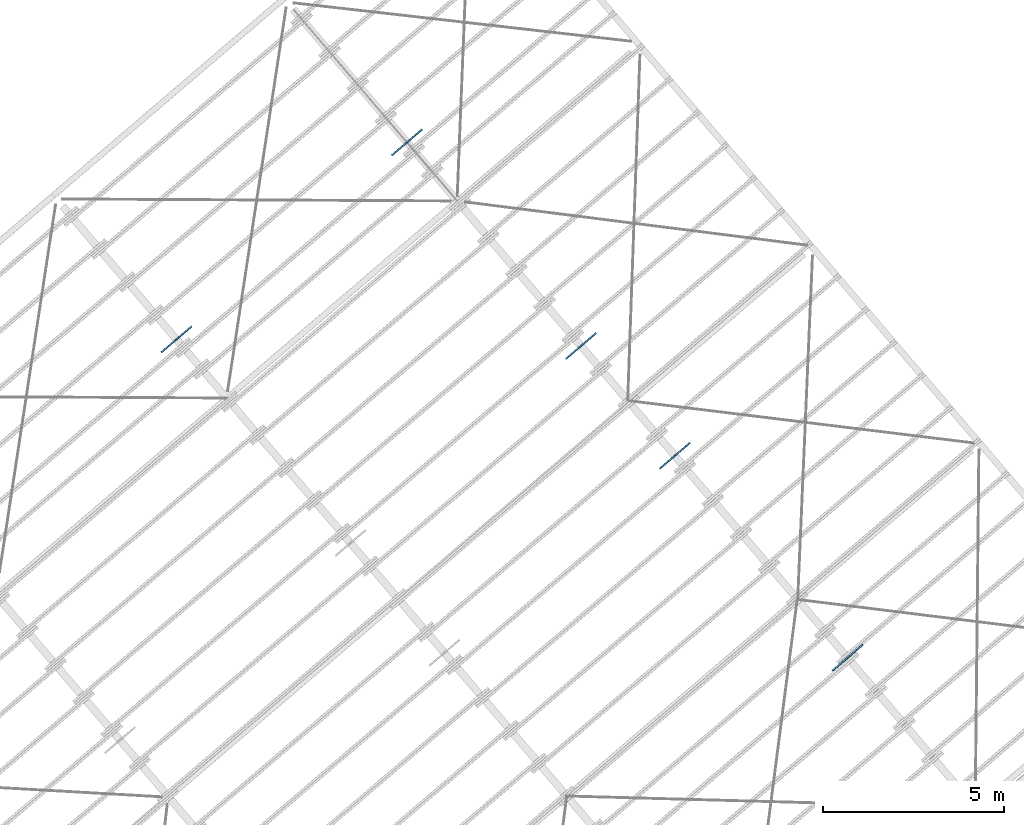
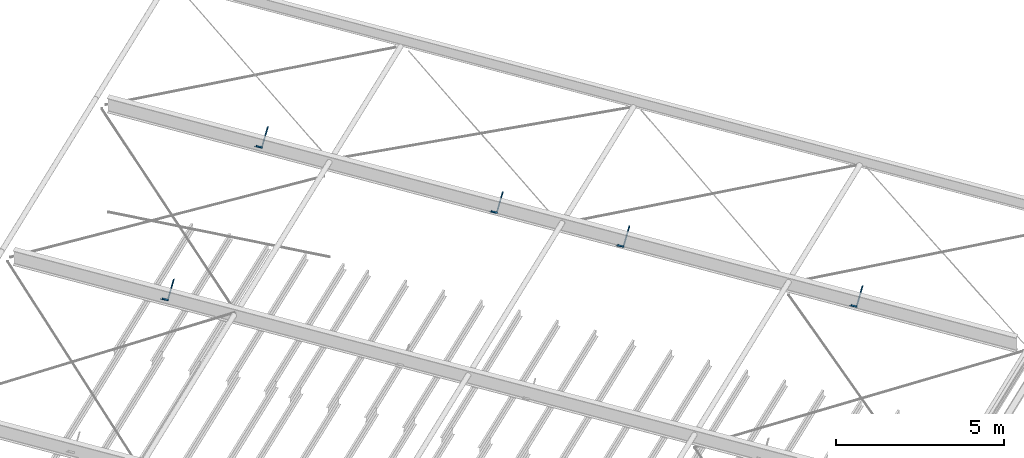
# One storey, part 23 of 25: 10 beams.
"""IFC2X3 building model written with IfcOpenShell, lengths in millimetres."""

from ifc_helpers import new_model, entity, si_unit, converted_unit, derived_unit, direction, frame, frame_2d, origin, place, context, subcontext, project, spatial, polyline, circle_curve, parameter, trimmed, segment, composite_curve, outline, extrude, clip, halfspace, type_object, element, save


model = new_model("IFC2X3")

# Units and contexts
model_context = context("Model", 3, precision=0.01, world=origin(), true_north=direction((6.123031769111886e-17, 1.0)))
body_context = subcontext(model_context, "Body", "Model", "MODEL_VIEW")
ifc_project = project(units=[si_unit("LENGTHUNIT", "METRE", prefix="MILLI"), si_unit("AREAUNIT", "SQUARE_METRE"), si_unit("VOLUMEUNIT", "CUBIC_METRE"), converted_unit("PLANEANGLEUNIT", "DEGREE", entity("IfcRatioMeasure", 0.017453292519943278), si_unit("PLANEANGLEUNIT", "RADIAN"), dimensions=[0, 0, 0, 0, 0, 0, 0]), si_unit("MASSUNIT", "GRAM", prefix="KILO"), derived_unit("MASSDENSITYUNIT", [(si_unit("MASSUNIT", "GRAM", prefix="KILO"), 1), (si_unit("LENGTHUNIT", "METRE"), -3)]), derived_unit("MOMENTOFINERTIAUNIT", [(si_unit("LENGTHUNIT", "METRE"), 4)]), si_unit("TIMEUNIT", "SECOND"), si_unit("FREQUENCYUNIT", "HERTZ"), si_unit("THERMODYNAMICTEMPERATUREUNIT", "DEGREE_CELSIUS"), derived_unit("THERMALTRANSMITTANCEUNIT", [(si_unit("MASSUNIT", "GRAM", prefix="KILO"), 1), (si_unit("THERMODYNAMICTEMPERATUREUNIT", "KELVIN"), -1), (si_unit("TIMEUNIT", "SECOND"), -3)]), derived_unit("VOLUMETRICFLOWRATEUNIT", [(si_unit("LENGTHUNIT", "METRE"), 3), (si_unit("TIMEUNIT", "SECOND"), -1)]), derived_unit("MASSFLOWRATEUNIT", [(si_unit("MASSUNIT", "GRAM", prefix="KILO"), 1), (si_unit("TIMEUNIT", "SECOND"), -1)]), derived_unit("ROTATIONALFREQUENCYUNIT", [(si_unit("TIMEUNIT", "SECOND"), -1)]), si_unit("ELECTRICCURRENTUNIT", "AMPERE"), si_unit("ELECTRICVOLTAGEUNIT", "VOLT"), si_unit("POWERUNIT", "WATT"), si_unit("FORCEUNIT", "NEWTON", prefix="KILO"), si_unit("ILLUMINANCEUNIT", "LUX"), si_unit("LUMINOUSFLUXUNIT", "LUMEN"), si_unit("LUMINOUSINTENSITYUNIT", "CANDELA"), derived_unit("USERDEFINED", [(si_unit("MASSUNIT", "GRAM", prefix="KILO"), -1), (si_unit("LENGTHUNIT", "METRE"), -2), (si_unit("TIMEUNIT", "SECOND"), 3), (si_unit("LUMINOUSFLUXUNIT", "LUMEN"), 1)]), derived_unit("SOUNDPOWERUNIT", [(si_unit("MASSUNIT", "GRAM", prefix="KILO"), 1), (si_unit("LENGTHUNIT", "METRE"), 2), (si_unit("TIMEUNIT", "SECOND"), -3)]), derived_unit("LINEARVELOCITYUNIT", [(si_unit("LENGTHUNIT", "METRE"), 1), (si_unit("TIMEUNIT", "SECOND"), -1)]), si_unit("PRESSUREUNIT", "PASCAL"), derived_unit("USERDEFINED", [(si_unit("LENGTHUNIT", "METRE"), -2), (si_unit("MASSUNIT", "GRAM", prefix="KILO"), 1), (si_unit("TIMEUNIT", "SECOND"), -2)]), derived_unit("LINEARFORCEUNIT", [(si_unit("MASSUNIT", "GRAM", prefix="KILO"), 1), (si_unit("LENGTHUNIT", "METRE"), 1), (si_unit("TIMEUNIT", "SECOND"), -2), (si_unit("LENGTHUNIT", "METRE"), -1)]), derived_unit("PLANARFORCEUNIT", [(si_unit("MASSUNIT", "GRAM", prefix="KILO"), 1), (si_unit("LENGTHUNIT", "METRE"), 1), (si_unit("TIMEUNIT", "SECOND"), -2), (si_unit("LENGTHUNIT", "METRE"), -2)])], contexts=[model_context])

# Site, building, storey
site_placement = place(None, frame((962.4174930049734, -6014.433753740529, 0.0), z_axis=(0.0, 0.0, 1.0), x_axis=(0.7601792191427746, 0.649713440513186, 0.0)))
site = spatial("IfcSite", under=ifc_project, at=site_placement, Name="Default", CompositionType="ELEMENT")
building_placement = place(site_placement, origin())
building = spatial("IfcBuilding", under=site, at=building_placement, CompositionType="ELEMENT")
storey_placement = place(building_placement, frame((0.0, 0.0, 9200.0)))
storey = spatial("IfcBuildingStorey", under=building, at=storey_placement, Name="TOP OF CEILING", CompositionType="ELEMENT", Elevation=9200.000000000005)

# Beams
beam_type = type_object("IfcBeamType", Name="ADSK_AU_EA-Equal Angles (AS 3679_1):50x50x5EA", PredefinedType="NOTDEFINED")
beam_1_placement = place(storey_placement, frame((179666.05964134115, -20517.928082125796, 2502.2460975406), z_axis=(-0.6018150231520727, 0.0, 0.7986355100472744), x_axis=(-0.7986355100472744, 0.0, -0.6018150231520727)))
element("IfcBeam", 1, at=beam_1_placement, inside=storey, type_object=beam_type, Name="ADSK_AU_EA-Equal Angles (AS 3679_1):50x50x5EA", ObjectType="ADSK_AU_EA-Equal Angles (AS 3679_1):50x50x5EA", context=body_context, shape_type="SweptSolid", body=[
    clip(extrude(outline(composite_curve([segment(polyline([(16.88888888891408, -31.11111111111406), (18.88888888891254, -31.111111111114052)]), True, "CONTINUOUS"), segment(polyline([(18.88888888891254, -31.111111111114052), (18.888888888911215, 18.888888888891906)]), True, "CONTINUOUS"), segment(polyline([(18.888888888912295, 18.888888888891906), (-31.11111111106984, 18.88888888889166)]), True, "CONTINUOUS"), segment(polyline([(-31.111111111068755, 18.88888888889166), (-31.11111111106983, 16.888888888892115)]), True, "CONTINUOUS"), segment(trimmed(circle_curve(frame_2d((-28.111111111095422, 16.8888888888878), x_axis=(-1.0, 0.0)), 2.9999999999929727), [parameter(0.0)], [parameter(90.00000000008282)], True, "PARAMETER"), True, "CONTINUOUS"), segment(polyline([(-28.111111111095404, 13.88888888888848), (7.888888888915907, 13.888888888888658)]), True, "CONTINUOUS"), segment(trimmed(circle_curve(frame_2d((7.888888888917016, 7.88888888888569), x_axis=(0.0, 1.0)), 6.00000000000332), [parameter(270.0000000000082)], [parameter(0.0)], True, "PARAMETER"), False, "CONTINUOUS"), segment(polyline([(13.8888888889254, 7.888888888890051), (13.888888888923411, -28.11111111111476)]), True, "CONTINUOUS"), segment(trimmed(circle_curve(frame_2d((16.888888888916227, -28.111111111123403), x_axis=(-1.0, 0.0)), 2.9999999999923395), [parameter(0.0)], [parameter(90.00000000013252)], True, "PARAMETER"), True, "CONTINUOUS")], self_intersect=False)), frame((0.0, -4.9888888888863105, -31.11111111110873), z_axis=(1.0, 0.0, 0.0), x_axis=(0.0, 0.0, -1.0)), (0.0, 0.0, 1.0), 697.6777025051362), halfspace(frame((697.67770250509, 0.0, -50.0), z_axis=(0.7986355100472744, 0.0, 0.6018150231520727), x_axis=(0.0, -1.0, 0.0)), False)),
])
beam_2_placement = place(storey_placement, frame((178611.86076807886, -20517.928082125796, 2502.2460975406), z_axis=(0.6018150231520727, 0.0, 0.7986355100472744), x_axis=(0.7986355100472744, 0.0, -0.6018150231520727)))
element("IfcBeam", 2, at=beam_2_placement, inside=storey, type_object=beam_type, Name="ADSK_AU_EA-Equal Angles (AS 3679_1):50x50x5EA", ObjectType="ADSK_AU_EA-Equal Angles (AS 3679_1):50x50x5EA", context=body_context, shape_type="SweptSolid", body=[
    clip(extrude(outline(composite_curve([segment(polyline([(-31.111111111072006, -18.88888888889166), (18.888888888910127, -18.888888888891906)]), True, "CONTINUOUS"), segment(polyline([(18.888888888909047, -18.888888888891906), (18.888888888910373, 31.111111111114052)]), True, "CONTINUOUS"), segment(polyline([(18.888888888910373, 31.111111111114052), (16.888888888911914, 31.11111111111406)]), True, "CONTINUOUS"), segment(trimmed(circle_curve(frame_2d((16.88888888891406, 28.111111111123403), x_axis=(0.0, 1.0)), 2.9999999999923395), [parameter(0.0)], [parameter(90.00000000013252)], True, "PARAMETER"), True, "CONTINUOUS"), segment(polyline([(13.888888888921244, 28.11111111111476), (13.888888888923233, -7.888888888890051)]), True, "CONTINUOUS"), segment(trimmed(circle_curve(frame_2d((7.888888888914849, -7.88888888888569), x_axis=(1.0, 0.0)), 6.00000000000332), [parameter(270.0000000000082)], [parameter(0.0)], True, "PARAMETER"), False, "CONTINUOUS"), segment(polyline([(7.88888888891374, -13.888888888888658), (-28.111111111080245, -13.88888888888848)]), True, "CONTINUOUS"), segment(trimmed(circle_curve(frame_2d((-28.111111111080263, -16.8888888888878), x_axis=(0.0, 1.0)), 2.9999999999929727), [parameter(0.0)], [parameter(90.00000000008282)], True, "PARAMETER"), True, "CONTINUOUS"), segment(polyline([(-31.111111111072, -16.888888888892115), (-31.111111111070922, -18.88888888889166)]), True, "CONTINUOUS")], self_intersect=False)), frame((0.0, 4.9888888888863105, -31.111111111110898), z_axis=(1.0, 0.0, 0.0), x_axis=(0.0, 0.0, -1.0)), (0.0, 0.0, 1.0), 697.6777025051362), halfspace(frame((697.6777025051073, 0.0, -50.0), z_axis=(0.7986355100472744, 0.0, 0.6018150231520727), x_axis=(0.0, -1.0, 0.0)), False)),
])
beam_3_placement = place(storey_placement, frame((171266.0596413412, -1736.2280821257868, 3902.2460975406), z_axis=(-0.6018150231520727, 0.0, 0.7986355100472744), x_axis=(-0.7986355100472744, 0.0, -0.6018150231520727)))
element("IfcBeam", 3, at=beam_3_placement, inside=storey, type_object=beam_type, Name="ADSK_AU_EA-Equal Angles (AS 3679_1):50x50x5EA", ObjectType="ADSK_AU_EA-Equal Angles (AS 3679_1):50x50x5EA", context=body_context, shape_type="SweptSolid", body=[
    clip(extrude(outline(composite_curve([segment(polyline([(16.88888888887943, -31.111111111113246), (18.888888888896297, -31.11111111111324)]), True, "CONTINUOUS"), segment(polyline([(18.888888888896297, -31.11111111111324), (18.888888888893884, 18.888888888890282)]), True, "CONTINUOUS"), segment(polyline([(18.88888888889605, 18.888888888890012), (-31.11111111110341, 18.888888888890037)]), True, "CONTINUOUS"), segment(polyline([(-31.11111111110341, 18.888888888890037), (-31.1111111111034, 16.888888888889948)]), True, "CONTINUOUS"), segment(trimmed(circle_curve(frame_2d((-28.11111111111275, 16.888888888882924), x_axis=(-1.0, 0.0)), 2.999999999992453), [parameter(0.0)], [parameter(90.00000000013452)], True, "PARAMETER"), True, "CONTINUOUS"), segment(polyline([(-28.11111111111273, 13.888888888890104), (7.888888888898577, 13.888888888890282)]), True, "CONTINUOUS"), segment(trimmed(circle_curve(frame_2d((7.888888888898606, 7.8888888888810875), x_axis=(0.0, 1.0)), 6.000000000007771), [parameter(270.0000000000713)], [parameter(0.0)], True, "PARAMETER"), False, "CONTINUOUS"), segment(polyline([(13.888888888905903, 7.888888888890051), (13.88888888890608, -28.111111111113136)]), True, "CONTINUOUS"), segment(trimmed(circle_curve(frame_2d((16.888888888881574, -28.11111111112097), x_axis=(-1.0, 0.0)), 2.9999999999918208), [parameter(0.0)], [parameter(90.000000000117)], True, "PARAMETER"), True, "CONTINUOUS")], self_intersect=False)), frame((0.0, -4.988888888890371, -31.111111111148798), z_axis=(1.0, 0.0, 0.0), x_axis=(0.0, 0.0, -1.0)), (0.0, 0.0, 1.0), 697.6777025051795), halfspace(frame((697.6777025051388, 0.0, -50.0), z_axis=(0.7986355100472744, 0.0, 0.6018150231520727), x_axis=(0.0, -1.0, 0.0)), False)),
])
beam_4_placement = place(storey_placement, frame((170211.8607680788, -1736.2280821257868, 3902.2460975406), z_axis=(0.6018150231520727, 0.0, 0.7986355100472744), x_axis=(0.7986355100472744, 0.0, -0.6018150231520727)))
element("IfcBeam", 4, at=beam_4_placement, inside=storey, type_object=beam_type, Name="ADSK_AU_EA-Equal Angles (AS 3679_1):50x50x5EA", ObjectType="ADSK_AU_EA-Equal Angles (AS 3679_1):50x50x5EA", context=body_context, shape_type="SweptSolid", body=[
    clip(extrude(outline(composite_curve([segment(polyline([(-31.11111111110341, -18.888888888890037), (18.88888888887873, -18.888888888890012)]), True, "CONTINUOUS"), segment(polyline([(18.88888888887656, -18.888888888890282), (18.888888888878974, 31.11111111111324)]), True, "CONTINUOUS"), segment(polyline([(18.888888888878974, 31.11111111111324), (16.88888888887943, 31.111111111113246)]), True, "CONTINUOUS"), segment(trimmed(circle_curve(frame_2d((16.888888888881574, 28.11111111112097), x_axis=(0.0, 1.0)), 2.9999999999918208), [parameter(0.0)], [parameter(90.000000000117)], True, "PARAMETER"), True, "CONTINUOUS"), segment(polyline([(13.888888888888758, 28.111111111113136), (13.88888888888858, -7.888888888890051)]), True, "CONTINUOUS"), segment(trimmed(circle_curve(frame_2d((7.888888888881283, -7.8888888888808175), x_axis=(1.0, 0.0)), 6.000000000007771), [parameter(270.0000000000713)], [parameter(0.0)], True, "PARAMETER"), False, "CONTINUOUS"), segment(polyline([(7.888888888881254, -13.888888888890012), (-28.111111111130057, -13.888888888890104)]), True, "CONTINUOUS"), segment(trimmed(circle_curve(frame_2d((-28.111111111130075, -16.888888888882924), x_axis=(0.0, 1.0)), 2.999999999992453), [parameter(0.0)], [parameter(90.00000000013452)], True, "PARAMETER"), True, "CONTINUOUS"), segment(polyline([(-31.1111111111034, -16.888888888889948), (-31.11111111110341, -18.888888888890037)]), True, "CONTINUOUS")], self_intersect=False)), frame((0.0, 4.988888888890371, -31.111111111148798), z_axis=(1.0, 0.0, 0.0), x_axis=(0.0, 0.0, -1.0)), (0.0, 0.0, 1.0), 697.6777025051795), halfspace(frame((697.6777025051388, 0.0, -50.0), z_axis=(0.7986355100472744, 0.0, 0.6018150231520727), x_axis=(0.0, -1.0, 0.0)), False)),
])
beam_5_placement = place(storey_placement, frame((179666.0596413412, -1736.228082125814, 3902.2460975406), z_axis=(-0.6018150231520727, 0.0, 0.7986355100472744), x_axis=(-0.7986355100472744, 0.0, -0.6018150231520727)))
element("IfcBeam", 5, at=beam_5_placement, inside=storey, type_object=beam_type, Name="ADSK_AU_EA-Equal Angles (AS 3679_1):50x50x5EA", ObjectType="ADSK_AU_EA-Equal Angles (AS 3679_1):50x50x5EA", context=body_context, shape_type="SweptSolid", body=[
    clip(extrude(outline(composite_curve([segment(polyline([(16.888888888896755, -31.111111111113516), (18.8888888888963, -31.11111111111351)]), True, "CONTINUOUS"), segment(polyline([(18.8888888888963, -31.11111111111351), (18.888888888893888, 18.888888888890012)]), True, "CONTINUOUS"), segment(polyline([(18.888888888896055, 18.888888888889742), (-31.111111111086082, 18.888888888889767)]), True, "CONTINUOUS"), segment(polyline([(-31.111111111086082, 18.888888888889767), (-31.111111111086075, 16.888888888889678)]), True, "CONTINUOUS"), segment(trimmed(circle_curve(frame_2d((-28.111111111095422, 16.888888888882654), x_axis=(-1.0, 0.0)), 2.999999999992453), [parameter(0.0)], [parameter(90.00000000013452)], True, "PARAMETER"), True, "CONTINUOUS"), segment(polyline([(-28.111111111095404, 13.888888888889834), (7.888888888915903, 13.888888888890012)]), True, "CONTINUOUS"), segment(trimmed(circle_curve(frame_2d((7.8888888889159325, 7.8888888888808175), x_axis=(0.0, 1.0)), 6.000000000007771), [parameter(270.0000000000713)], [parameter(0.0)], True, "PARAMETER"), False, "CONTINUOUS"), segment(polyline([(13.88888888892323, 7.888888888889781), (13.888888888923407, -28.111111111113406)]), True, "CONTINUOUS"), segment(trimmed(circle_curve(frame_2d((16.8888888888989, -28.11111111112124), x_axis=(-1.0, 0.0)), 2.9999999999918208), [parameter(0.0)], [parameter(90.000000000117)], True, "PARAMETER"), True, "CONTINUOUS")], self_intersect=False)), frame((0.0, -4.988888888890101, -31.11111111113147), z_axis=(1.0, 0.0, 0.0), x_axis=(0.0, 0.0, -1.0)), (0.0, 0.0, 1.0), 697.6777025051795), halfspace(frame((697.6777025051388, 0.0, -50.0), z_axis=(0.7986355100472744, 0.0, 0.6018150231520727), x_axis=(0.0, -1.0, 0.0)), False)),
])
beam_6_placement = place(storey_placement, frame((178611.8607680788, -1736.228082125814, 3902.2460975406), z_axis=(0.6018150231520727, 0.0, 0.7986355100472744), x_axis=(0.7986355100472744, 0.0, -0.6018150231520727)))
element("IfcBeam", 6, at=beam_6_placement, inside=storey, type_object=beam_type, Name="ADSK_AU_EA-Equal Angles (AS 3679_1):50x50x5EA", ObjectType="ADSK_AU_EA-Equal Angles (AS 3679_1):50x50x5EA", context=body_context, shape_type="SweptSolid", body=[
    clip(extrude(outline(composite_curve([segment(polyline([(-31.111111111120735, -18.888888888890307), (18.888888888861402, -18.888888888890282)]), True, "CONTINUOUS"), segment(polyline([(18.888888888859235, -18.888888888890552), (18.888888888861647, 31.11111111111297)]), True, "CONTINUOUS"), segment(polyline([(18.888888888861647, 31.11111111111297), (16.888888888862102, 31.111111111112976)]), True, "CONTINUOUS"), segment(trimmed(circle_curve(frame_2d((16.888888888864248, 28.1111111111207), x_axis=(0.0, 1.0)), 2.9999999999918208), [parameter(0.0)], [parameter(90.000000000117)], True, "PARAMETER"), True, "CONTINUOUS"), segment(polyline([(13.888888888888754, 28.111111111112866), (13.888888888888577, -7.888888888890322)]), True, "CONTINUOUS"), segment(trimmed(circle_curve(frame_2d((7.888888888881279, -7.888888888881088), x_axis=(1.0, 0.0)), 6.000000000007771), [parameter(270.0000000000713)], [parameter(0.0)], True, "PARAMETER"), False, "CONTINUOUS"), segment(polyline([(7.88888888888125, -13.888888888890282), (-28.111111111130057, -13.888888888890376)]), True, "CONTINUOUS"), segment(trimmed(circle_curve(frame_2d((-28.111111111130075, -16.888888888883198), x_axis=(0.0, 1.0)), 2.999999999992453), [parameter(0.0)], [parameter(90.00000000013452)], True, "PARAMETER"), True, "CONTINUOUS"), segment(polyline([(-31.111111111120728, -16.888888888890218), (-31.111111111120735, -18.888888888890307)]), True, "CONTINUOUS")], self_intersect=False)), frame((0.0, 4.988888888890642, -31.111111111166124), z_axis=(1.0, 0.0, 0.0), x_axis=(0.0, 0.0, -1.0)), (0.0, 0.0, 1.0), 697.6777025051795), halfspace(frame((697.6777025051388, 0.0, -50.0), z_axis=(0.7986355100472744, 0.0, 0.6018150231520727), x_axis=(0.0, -1.0, 0.0)), False)),
])
beam_7_placement = place(storey_placement, frame((179666.05964134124, -9155.303082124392, 3263.315060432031), z_axis=(-0.6018150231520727, 0.0, 0.7986355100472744), x_axis=(-0.7986355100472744, 0.0, -0.6018150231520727)))
element("IfcBeam", 7, at=beam_7_placement, inside=storey, type_object=beam_type, Name="ADSK_AU_EA-Equal Angles (AS 3679_1):50x50x5EA", ObjectType="ADSK_AU_EA-Equal Angles (AS 3679_1):50x50x5EA", context=body_context, shape_type="SweptSolid", body=[
    clip(extrude(outline(composite_curve([segment(polyline([(16.88888888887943, -31.111111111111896), (18.888888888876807, -31.11111111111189)]), True, "CONTINUOUS"), segment(polyline([(18.888888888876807, -31.11111111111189), (18.88888888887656, 18.888888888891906)]), True, "CONTINUOUS"), segment(polyline([(18.88888888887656, 18.888888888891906), (-31.111111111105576, 18.888888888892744)]), True, "CONTINUOUS"), segment(polyline([(-31.11111111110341, 18.888888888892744), (-31.11111111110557, 16.888888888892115)]), True, "CONTINUOUS"), segment(trimmed(circle_curve(frame_2d((-28.11111111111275, 16.88888888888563), x_axis=(-1.0, 0.0)), 2.999999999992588), [parameter(0.0)], [parameter(90.00000000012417)], True, "PARAMETER"), True, "CONTINUOUS"), segment(polyline([(-28.11111111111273, 13.888888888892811), (7.888888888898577, 13.888888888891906)]), True, "CONTINUOUS"), segment(trimmed(circle_curve(frame_2d((7.888888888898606, 7.888888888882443), x_axis=(0.0, 1.0)), 6.000000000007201), [parameter(270.0000000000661)], [parameter(0.0)], True, "PARAMETER"), False, "CONTINUOUS"), segment(polyline([(13.888888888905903, 7.888888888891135), (13.88888888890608, -28.11111111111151)]), True, "CONTINUOUS"), segment(trimmed(circle_curve(frame_2d((16.888888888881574, -28.111111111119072), x_axis=(-1.0, 0.0)), 2.9999999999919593), [parameter(0.0)], [parameter(90.00000000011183)], True, "PARAMETER"), True, "CONTINUOUS")], self_intersect=False)), frame((0.0, -4.9888888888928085, -31.11111111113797), z_axis=(1.0, 0.0, 0.0), x_axis=(0.0, 0.0, -1.0)), (0.0, 0.0, 1.0), 697.6777025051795), halfspace(frame((697.6777025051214, 0.0, -50.0), z_axis=(0.7986355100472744, 0.0, 0.6018150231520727), x_axis=(0.0, -1.0, 0.0)), False)),
])
beam_8_placement = place(storey_placement, frame((178611.86076807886, -9155.303082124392, 3263.315060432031), z_axis=(0.6018150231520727, 0.0, 0.7986355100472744), x_axis=(0.7986355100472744, 0.0, -0.6018150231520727)))
element("IfcBeam", 8, at=beam_8_placement, inside=storey, type_object=beam_type, Name="ADSK_AU_EA-Equal Angles (AS 3679_1):50x50x5EA", ObjectType="ADSK_AU_EA-Equal Angles (AS 3679_1):50x50x5EA", context=body_context, shape_type="SweptSolid", body=[
    clip(extrude(outline(composite_curve([segment(polyline([(-31.11111111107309, -18.88888888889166), (18.888888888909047, -18.888888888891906)]), True, "CONTINUOUS"), segment(polyline([(18.888888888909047, -18.888888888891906), (18.888888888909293, 31.111111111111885)]), True, "CONTINUOUS"), segment(polyline([(18.888888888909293, 31.111111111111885), (16.888888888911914, 31.111111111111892)]), True, "CONTINUOUS"), segment(trimmed(circle_curve(frame_2d((16.88888888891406, 28.111111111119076), x_axis=(0.0, 1.0)), 2.9999999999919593), [parameter(0.0)], [parameter(90.00000000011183)], True, "PARAMETER"), True, "CONTINUOUS"), segment(polyline([(13.888888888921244, 28.111111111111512), (13.888888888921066, -7.888888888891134)]), True, "CONTINUOUS"), segment(trimmed(circle_curve(frame_2d((7.888888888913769, -7.888888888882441), x_axis=(1.0, 0.0)), 6.000000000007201), [parameter(270.0000000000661)], [parameter(0.0)], True, "PARAMETER"), False, "CONTINUOUS"), segment(polyline([(7.88888888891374, -13.888888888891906), (-28.111111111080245, -13.888888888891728)]), True, "CONTINUOUS"), segment(trimmed(circle_curve(frame_2d((-28.111111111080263, -16.888888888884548), x_axis=(0.0, 1.0)), 2.999999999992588), [parameter(0.0)], [parameter(90.00000000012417)], True, "PARAMETER"), True, "CONTINUOUS"), segment(polyline([(-31.111111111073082, -16.88888888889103), (-31.111111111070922, -18.88888888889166)]), True, "CONTINUOUS")], self_intersect=False)), frame((0.0, 4.988888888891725, -31.111111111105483), z_axis=(1.0, 0.0, 0.0), x_axis=(0.0, 0.0, -1.0)), (0.0, 0.0, 1.0), 697.6777025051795), halfspace(frame((697.6777025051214, 0.0, -50.0), z_axis=(0.7986355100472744, 0.0, 0.6018150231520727), x_axis=(0.0, -1.0, 0.0)), False)),
])
beam_9_placement = place(storey_placement, frame((179666.05964134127, -13155.303082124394, 2963.3150604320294), z_axis=(-0.6018150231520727, 0.0, 0.7986355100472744), x_axis=(-0.7986355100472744, 0.0, -0.6018150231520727)))
element("IfcBeam", 9, at=beam_9_placement, inside=storey, type_object=beam_type, Name="ADSK_AU_EA-Equal Angles (AS 3679_1):50x50x5EA", ObjectType="ADSK_AU_EA-Equal Angles (AS 3679_1):50x50x5EA", context=body_context, shape_type="SweptSolid", body=[
    clip(extrude(outline(composite_curve([segment(polyline([(16.888888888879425, -31.111111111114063), (18.888888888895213, -31.111111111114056)]), True, "CONTINUOUS"), segment(polyline([(18.888888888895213, -31.111111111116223), (18.8888888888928, 18.888888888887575)]), True, "CONTINUOUS"), segment(polyline([(18.888888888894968, 18.888888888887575), (-31.11111111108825, 18.88888888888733)]), True, "CONTINUOUS"), segment(polyline([(-31.111111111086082, 18.88888888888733), (-31.111111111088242, 16.888888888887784)]), True, "CONTINUOUS"), segment(trimmed(circle_curve(frame_2d((-28.11111111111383, 16.888888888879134), x_axis=(-1.0, 0.0)), 2.9999999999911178), [parameter(0.0)], [parameter(90.00000000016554)], True, "PARAMETER"), True, "CONTINUOUS"), segment(polyline([(-28.11111111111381, 13.88888888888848), (7.888888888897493, 13.888888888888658)]), True, "CONTINUOUS"), segment(trimmed(circle_curve(frame_2d((7.888888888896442, 7.8888888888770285), x_axis=(0.0, 1.0)), 6.000000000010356), [parameter(270.00000000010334)], [parameter(0.0)], True, "PARAMETER"), False, "CONTINUOUS"), segment(polyline([(13.888888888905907, 7.8888888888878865), (13.888888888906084, -28.111111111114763)]), True, "CONTINUOUS"), segment(trimmed(circle_curve(frame_2d((16.88888888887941, -28.111111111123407), x_axis=(-1.0, 0.0)), 2.9999999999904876), [parameter(0.0)], [parameter(90.00000000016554)], True, "PARAMETER"), True, "CONTINUOUS")], self_intersect=False)), frame((0.0, -4.988888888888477, -31.111111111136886), z_axis=(1.0, 0.0, 0.0), x_axis=(0.0, 0.0, -1.0)), (0.0, 0.0, 1.0), 697.6777025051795), halfspace(frame((697.6777025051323, 0.0, -50.0), z_axis=(0.7986355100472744, 0.0, 0.6018150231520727), x_axis=(0.0, -1.0, 0.0)), False)),
])
beam_10_placement = place(storey_placement, frame((178611.86076807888, -13155.303082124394, 2963.3150604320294), z_axis=(0.6018150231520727, 0.0, 0.7986355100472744), x_axis=(0.7986355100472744, 0.0, -0.6018150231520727)))
element("IfcBeam", 10, at=beam_10_placement, inside=storey, type_object=beam_type, Name="ADSK_AU_EA-Equal Angles (AS 3679_1):50x50x5EA", ObjectType="ADSK_AU_EA-Equal Angles (AS 3679_1):50x50x5EA", context=body_context, shape_type="SweptSolid", body=[
    clip(extrude(outline(composite_curve([segment(polyline([(-31.111111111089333, -18.888888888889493), (18.888888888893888, -18.88888888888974)]), True, "CONTINUOUS"), segment(polyline([(18.88888888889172, -18.88888888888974), (18.888888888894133, 31.111111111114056)]), True, "CONTINUOUS"), segment(polyline([(18.888888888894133, 31.11111111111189), (16.888888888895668, 31.111111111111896)]), True, "CONTINUOUS"), segment(trimmed(circle_curve(frame_2d((16.888888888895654, 28.11111111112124), x_axis=(0.0, 1.0)), 2.9999999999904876), [parameter(0.0)], [parameter(90.00000000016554)], True, "PARAMETER"), True, "CONTINUOUS"), segment(polyline([(13.888888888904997, 28.111111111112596), (13.88888888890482, -7.888888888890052)]), True, "CONTINUOUS"), segment(trimmed(circle_curve(frame_2d((7.888888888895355, -7.888888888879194), x_axis=(1.0, 0.0)), 6.000000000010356), [parameter(270.00000000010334)], [parameter(0.0)], True, "PARAMETER"), False, "CONTINUOUS"), segment(polyline([(7.888888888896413, -13.888888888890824), (-28.111111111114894, -13.888888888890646)]), True, "CONTINUOUS"), segment(trimmed(circle_curve(frame_2d((-28.111111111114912, -16.8888888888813), x_axis=(0.0, 1.0)), 2.9999999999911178), [parameter(0.0)], [parameter(90.00000000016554)], True, "PARAMETER"), True, "CONTINUOUS"), segment(polyline([(-31.111111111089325, -16.888888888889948), (-31.111111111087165, -18.888888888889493)]), True, "CONTINUOUS")], self_intersect=False)), frame((0.0, 4.988888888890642, -31.111111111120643), z_axis=(1.0, 0.0, 0.0), x_axis=(0.0, 0.0, -1.0)), (0.0, 0.0, 1.0), 697.6777025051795), halfspace(frame((697.6777025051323, 0.0, -50.0), z_axis=(0.7986355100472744, 0.0, 0.6018150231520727), x_axis=(0.0, -1.0, 0.0)), False)),
])

save(model, "model.ifc")
